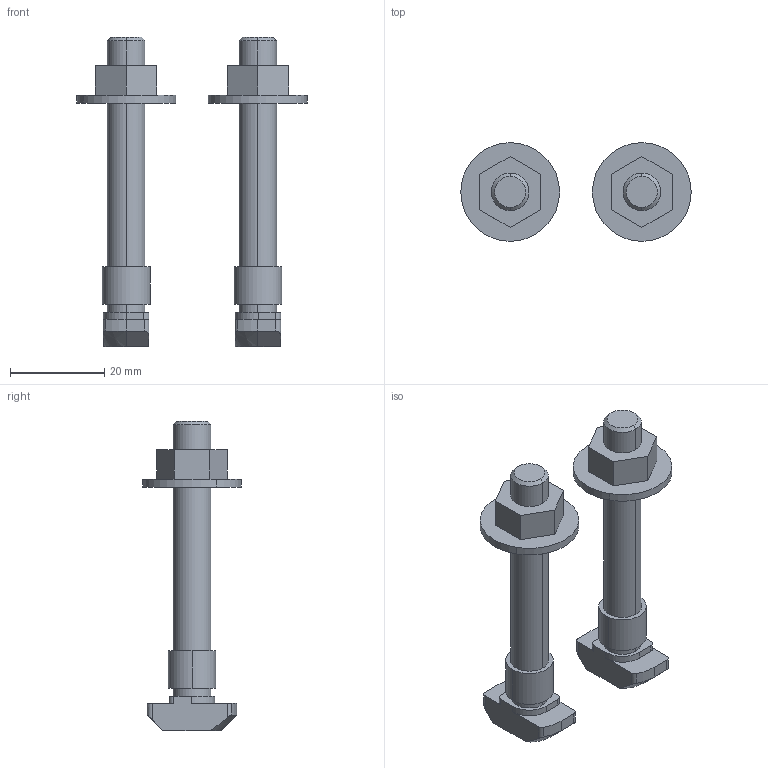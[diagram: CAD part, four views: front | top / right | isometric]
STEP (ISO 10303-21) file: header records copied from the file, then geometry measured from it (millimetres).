
FILE_DESCRIPTION (( 'STEP AP203' ), '1' );
FILE_NAME ('75000036-ASMS.STEP', '2016-11-22T10:49:36', ( '' ), ( '' ), 'SwSTEP 2.0', 'SolidWorks 2015', '' );
FILE_SCHEMA (( 'CONFIG_CONTROL_DESIGN' ));
Length unit declared in the file: millimetre
Products named in the file (1): 75000036-ASMS
Bounding box: 49 x 21 x 65.8 mm (x, y, z)
Volume: 10669.9 mm3; surface area: 6857.9 mm2
Topology: 2 solids, 2 shells, 100 faces, 246 edges, 160 vertices
Faces by surface type: plane 48, cylinder 44, cone 8
Entity records: 3289 total; most frequent: CARTESIAN_POINT 803, DIRECTION 508, ORIENTED_EDGE 492, EDGE_CURVE 246, AXIS2_PLACEMENT_3D 181, VERTEX_POINT 160, VECTOR 146, LINE 146
